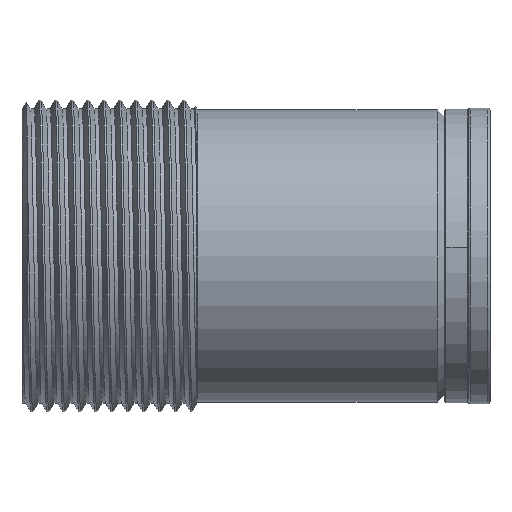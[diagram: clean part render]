
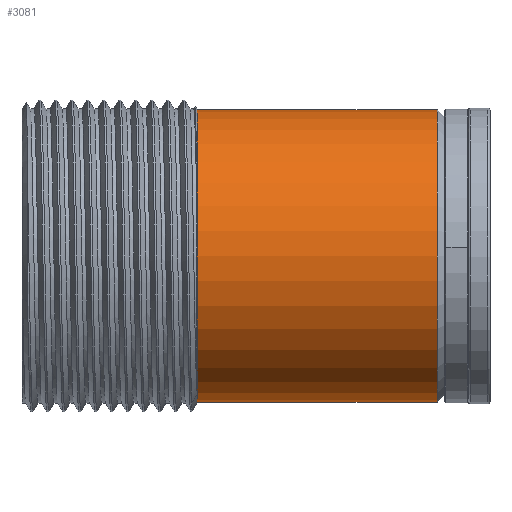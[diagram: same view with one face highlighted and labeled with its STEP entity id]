
A CAD part, front view. The second image highlights one B-rep face of the part: STEP entity #3081.
In plain terms, the highlighted cylindrical face has radius 19.342 mm (diameter 38.684 mm), a partial arc.
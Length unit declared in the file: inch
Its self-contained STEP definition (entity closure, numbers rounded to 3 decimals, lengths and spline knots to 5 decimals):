
#428 = CARTESIAN_POINT ( 'NONE',  ( 25.25553, 34.84364, 52.0702 ) ) ;
#1032 = DIRECTION ( 'NONE',  ( -1., 0., 0. ) ) ;
#1213 = CIRCLE ( 'NONE', #6216, 0.7615 ) ;
#1252 = CARTESIAN_POINT ( 'NONE',  ( 26.17053, 34.84364, 51.3087 ) ) ;
#1290 = DIRECTION ( 'NONE',  ( -1., 0., 0. ) ) ;
#1500 = VERTEX_POINT ( 'NONE', #3078 ) ;
#1840 = ORIENTED_EDGE ( 'NONE', *, *, #8404, .F. ) ;
#2290 = VERTEX_POINT ( 'NONE', #5753 ) ;
#2863 = CARTESIAN_POINT ( 'NONE',  ( 25.25553, 34.84364, 50.5472 ) ) ;
#2886 = AXIS2_PLACEMENT_3D ( 'NONE', #7437, #6770, #7386 ) ;
#3048 = VERTEX_POINT ( 'NONE', #6065 ) ;
#3078 = CARTESIAN_POINT ( 'NONE',  ( 27.42053, 34.84364, 52.0702 ) ) ;
#3081 = ADVANCED_FACE ( 'NONE', ( #3970 ), #8381, .T. ) ;
#3112 = CARTESIAN_POINT ( 'NONE',  ( 26.17053, 34.84364, 52.0702 ) ) ;
#3303 = DIRECTION ( 'NONE',  ( 0., 0., 1. ) ) ;
#3337 = EDGE_LOOP ( 'NONE', ( #1840, #5207, #8626, #4779 ) ) ;
#3529 = DIRECTION ( 'NONE',  ( -1., 0., 0. ) ) ;
#3844 = EDGE_CURVE ( 'NONE', #1500, #5666, #4738, .T. ) ;
#3970 = FACE_OUTER_BOUND ( 'NONE', #3337, .T. ) ;
#4242 = DIRECTION ( 'NONE',  ( 0., 0., 1. ) ) ;
#4619 = EDGE_CURVE ( 'NONE', #2290, #5666, #1213, .T. ) ;
#4646 = DIRECTION ( 'NONE',  ( -1., 0., 0. ) ) ;
#4738 = LINE ( 'NONE', #428, #9075 ) ;
#4779 = ORIENTED_EDGE ( 'NONE', *, *, #4619, .F. ) ;
#5207 = ORIENTED_EDGE ( 'NONE', *, *, #6796, .T. ) ;
#5347 = CARTESIAN_POINT ( 'NONE',  ( 25.25553, 34.84364, 51.3087 ) ) ;
#5517 = VECTOR ( 'NONE', #1290, 39.37008 ) ;
#5666 = VERTEX_POINT ( 'NONE', #3112 ) ;
#5753 = CARTESIAN_POINT ( 'NONE',  ( 26.17053, 34.84364, 50.5472 ) ) ;
#6065 = CARTESIAN_POINT ( 'NONE',  ( 27.42053, 34.84364, 50.5472 ) ) ;
#6216 = AXIS2_PLACEMENT_3D ( 'NONE', #1252, #3529, #4242 ) ;
#6527 = CIRCLE ( 'NONE', #2886, 0.7615 ) ;
#6770 = DIRECTION ( 'NONE',  ( -1., 0., 0. ) ) ;
#6796 = EDGE_CURVE ( 'NONE', #3048, #1500, #6527, .T. ) ;
#6953 = AXIS2_PLACEMENT_3D ( 'NONE', #5347, #1032, #3303 ) ;
#7386 = DIRECTION ( 'NONE',  ( 0., 0., 1. ) ) ;
#7437 = CARTESIAN_POINT ( 'NONE',  ( 27.42053, 34.84364, 51.3087 ) ) ;
#7794 = LINE ( 'NONE', #2863, #5517 ) ;
#8381 = CYLINDRICAL_SURFACE ( 'NONE', #6953, 0.7615 ) ;
#8404 = EDGE_CURVE ( 'NONE', #3048, #2290, #7794, .T. ) ;
#8626 = ORIENTED_EDGE ( 'NONE', *, *, #3844, .T. ) ;
#9075 = VECTOR ( 'NONE', #4646, 39.37008 ) ;
